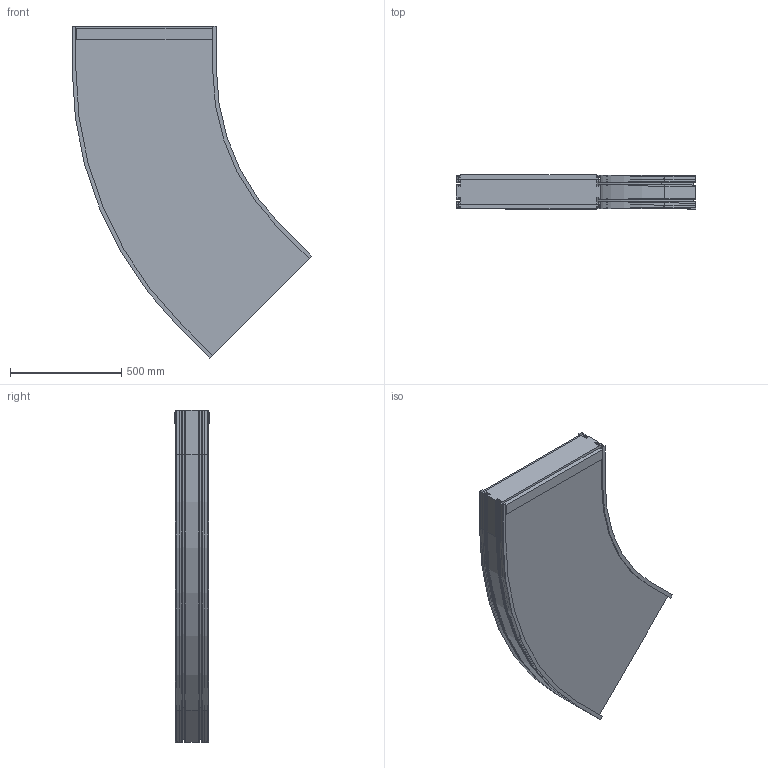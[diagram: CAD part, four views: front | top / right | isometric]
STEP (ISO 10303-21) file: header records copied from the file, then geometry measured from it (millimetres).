
FILE_DESCRIPTION (( 'STEP AP203' ), '1' );
FILE_NAME ('F2-2400-C45.STEP', '2009-02-16T12:23:43', ( 'faber' ), ( '' ), 'SwSTEP 2.0', 'SolidWorks 2008', '' );
FILE_SCHEMA (( 'CONFIG_CONTROL_DESIGN' ));
Length unit declared in the file: millimetre
Products named in the file (3): Tapis_2400; Courbe_ 2400; F2-2400-C45
Assembly tree (3 placements, depth 2):
  F2-2400-C45
    Tapis_2400  x2
    Courbe_ 2400
Bounding box: 1074.43 x 152.88 x 1489.41 mm (x, y, z)
Volume: 105763760.4 mm3; surface area: 3327198.5 mm2
Topology: 3 solids, 3 shells, 190 faces, 552 edges, 368 vertices
Faces by surface type: plane 148, cylinder 42
Entity records: 6273 total; most frequent: CARTESIAN_POINT 1066, ORIENTED_EDGE 1056, DIRECTION 984, EDGE_CURVE 528, VECTOR 444, LINE 444, VERTEX_POINT 352, AXIS2_PLACEMENT_3D 270
